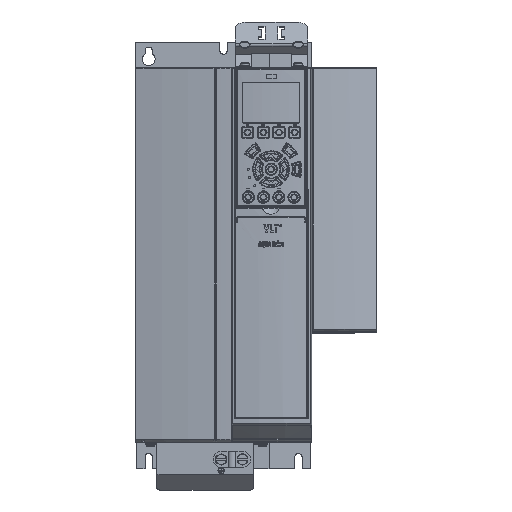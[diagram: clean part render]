
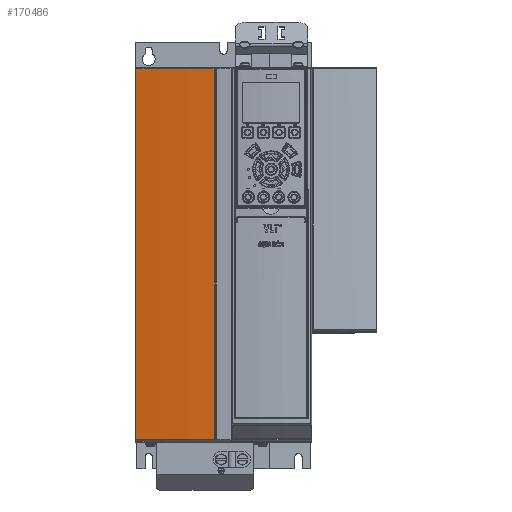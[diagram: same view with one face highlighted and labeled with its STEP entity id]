
A CAD part, top view. The second image highlights one B-rep face of the part: STEP entity #170486.
In plain terms, the highlighted cylindrical face has radius 574.02 mm (diameter 1148.04 mm), a partial arc.
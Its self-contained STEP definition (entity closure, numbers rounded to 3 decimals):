
#33137=CARTESIAN_POINT('',(-82.111,174.5,232.048));
#71995=DIRECTION('',(0.,-1.,0.));
#71996=VECTOR('',#71995,346.896);
#71997=CARTESIAN_POINT('',(-82.111,174.5,232.048));
#71998=LINE('',#71997,#71996);
#72002=CARTESIAN_POINT('',(44.923,174.5,-327.738));
#72003=DIRECTION('',(0.,1.,0.));
#72004=DIRECTION('',(-0.221,0.,0.975));
#72005=AXIS2_PLACEMENT_3D('',#72002,#72003,#72004);
#72010=DIRECTION('',(0.,1.,0.));
#72011=VECTOR('',#72010,346.896);
#72012=CARTESIAN_POINT('',(-8.928,-172.396,
243.75));
#72013=LINE('',#72012,#72011);
#72017=CARTESIAN_POINT('',(44.923,-172.396,
-327.738));
#72018=DIRECTION('',(0.,1.,0.));
#72019=DIRECTION('',(-0.221,0.,0.975));
#72020=AXIS2_PLACEMENT_3D('',#72017,#72018,#72019);
#72034=CARTESIAN_POINT('',(-8.928,174.5,
243.75));
#82231=VERTEX_POINT('',#72034);
#82235=CARTESIAN_POINT('',(-8.928,-172.396,
243.75));
#82236=VERTEX_POINT('',#82235);
#82243=CARTESIAN_POINT('',(-82.111,-172.396,
232.048));
#82244=VERTEX_POINT('',#82243);
#83191=VERTEX_POINT('',#33137);
#170474=CARTESIAN_POINT('',(44.923,-175.,-327.738));
#170475=DIRECTION('',(0.,1.,0.));
#170476=DIRECTION('',(0.,0.,1.));
#170477=AXIS2_PLACEMENT_3D('',#170474,#170475,#170476);
#170478=CYLINDRICAL_SURFACE('',#170477,574.02);
#170479=ORIENTED_EDGE('',*,*,#121016,.F.);
#170481=ORIENTED_EDGE('',*,*,#170480,.T.);
#170482=ORIENTED_EDGE('',*,*,#170464,.F.);
#170483=ORIENTED_EDGE('',*,*,#120940,.F.);
#170484=EDGE_LOOP('',(#170479,#170481,#170482,#170483));
#170485=FACE_OUTER_BOUND('',#170484,.F.);
#170486=ADVANCED_FACE('',(#170485),#170478,.T.);
#72006=CIRCLE('',#72005,574.02);
#72021=CIRCLE('',#72020,574.02);
#120940=EDGE_CURVE('',#82244,#82236,#72021,.T.);
#121016=EDGE_CURVE('',#83191,#82244,#71998,.T.);
#170464=EDGE_CURVE('',#82236,#82231,#72013,.T.);
#170480=EDGE_CURVE('',#83191,#82231,#72006,.T.);
